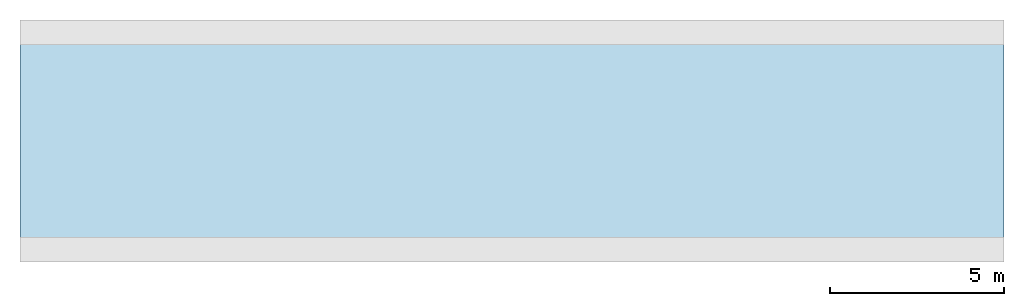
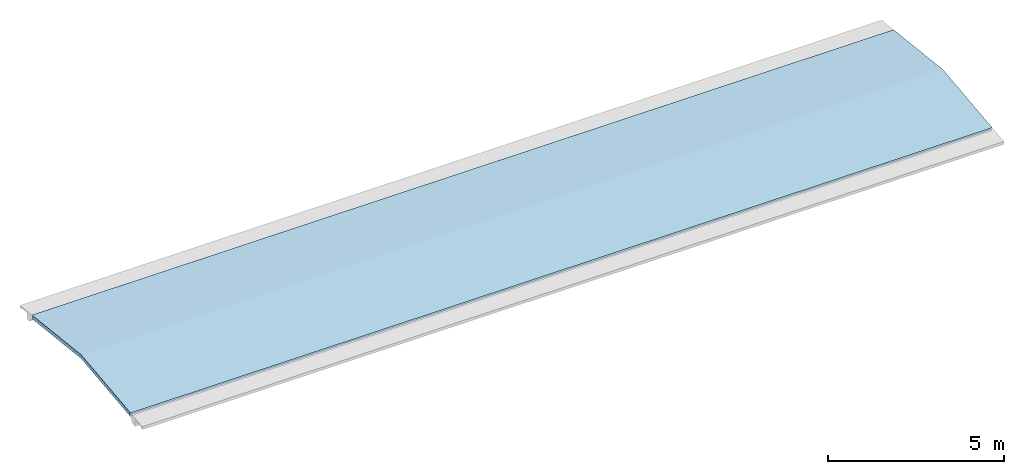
# One storey, part 1 of 2: 1 roof.
"""IFC2X3 building model written with IfcOpenShell, lengths in millimetres."""

from ifc_helpers import new_model, entity, si_unit, converted_unit, derived_unit, direction, frame, origin, place, context, subcontext, project, spatial, faceted_brep, material, element, save


model = new_model("IFC2X3")

# Units and contexts
model_context = context("Model", 3, precision=0.01, world=origin(), true_north=direction((6.12303176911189e-17, 1.0)))
body_context = subcontext(model_context, "Body", "Model", "MODEL_VIEW")
ifc_project = project(units=[si_unit("LENGTHUNIT", "METRE", prefix="MILLI"), si_unit("AREAUNIT", "SQUARE_METRE"), si_unit("VOLUMEUNIT", "CUBIC_METRE"), converted_unit("PLANEANGLEUNIT", "DEGREE", entity("IfcRatioMeasure", 0.0174532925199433), si_unit("PLANEANGLEUNIT", "RADIAN"), dimensions=[0, 0, 0, 0, 0, 0, 0]), si_unit("MASSUNIT", "GRAM", prefix="KILO"), derived_unit("MASSDENSITYUNIT", [(si_unit("MASSUNIT", "GRAM", prefix="KILO"), 1), (si_unit("LENGTHUNIT", "METRE"), -3)]), si_unit("TIMEUNIT", "SECOND"), si_unit("FREQUENCYUNIT", "HERTZ"), si_unit("THERMODYNAMICTEMPERATUREUNIT", "DEGREE_CELSIUS"), derived_unit("THERMALTRANSMITTANCEUNIT", [(si_unit("MASSUNIT", "GRAM", prefix="KILO"), 1), (si_unit("THERMODYNAMICTEMPERATUREUNIT", "KELVIN"), -1), (si_unit("TIMEUNIT", "SECOND"), -3)]), derived_unit("VOLUMETRICFLOWRATEUNIT", [(si_unit("LENGTHUNIT", "METRE"), 3), (si_unit("TIMEUNIT", "SECOND"), -1)]), si_unit("ELECTRICCURRENTUNIT", "AMPERE"), si_unit("ELECTRICVOLTAGEUNIT", "VOLT"), si_unit("POWERUNIT", "WATT"), si_unit("FORCEUNIT", "NEWTON", prefix="KILO"), si_unit("ILLUMINANCEUNIT", "LUX"), si_unit("LUMINOUSFLUXUNIT", "LUMEN"), si_unit("LUMINOUSINTENSITYUNIT", "CANDELA"), derived_unit("USERDEFINED", [(si_unit("MASSUNIT", "GRAM", prefix="KILO"), -1), (si_unit("LENGTHUNIT", "METRE"), -2), (si_unit("TIMEUNIT", "SECOND"), 3), (si_unit("LUMINOUSFLUXUNIT", "LUMEN"), 1)]), derived_unit("LINEARVELOCITYUNIT", [(si_unit("LENGTHUNIT", "METRE"), 1), (si_unit("TIMEUNIT", "SECOND"), -1)]), si_unit("PRESSUREUNIT", "PASCAL"), derived_unit("USERDEFINED", [(si_unit("LENGTHUNIT", "METRE"), -2), (si_unit("MASSUNIT", "GRAM", prefix="KILO"), 1), (si_unit("TIMEUNIT", "SECOND"), -2)])], contexts=[model_context])

# Site, building, storey
site_placement = place(None, origin())
site = spatial("IfcSite", under=ifc_project, at=site_placement, Name="表面", CompositionType="ELEMENT")
building_placement = place(site_placement, origin())
building = spatial("IfcBuilding", under=site, at=building_placement, CompositionType="ELEMENT")
storey_placement = place(building_placement, frame((0.0, 0.0, 13170.0)))
storey = spatial("IfcBuildingStorey", under=building, at=storey_placement, Name="13.170", CompositionType="ELEMENT", Elevation=13170.0)

# Roof
ifc_material = material(Name="彩钢-蓝")
roof_placement = place(storey_placement, frame((-25148.798781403, 5309.6974073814, 181.991694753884)))
element("IfcRoof", 1, at=roof_placement, inside=storey, material=ifc_material, Name="基本屋顶:常规 - 125mm", ObjectType="基本屋顶:常规 - 125mm", ShapeType="NOTDEFINED", context=body_context, shape_type="Brep", body=[
    faceted_brep([(0.0, 0.0, 123.008305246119), (0.0, 2800.0, 438.008305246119), (0.0, 5600.0, 123.008305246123), (0.0, 5550.0, 128.317873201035), (0.0, 5550.0, 37.6443870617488), (0.0, 5582.29604663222, 0.0), (0.0, 2800.0, 313.008305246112), (0.0, 17.7039533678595, 0.0), (0.0, 50.0, 37.644387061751), (0.0, 50.0, 128.317873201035), (28240.0, 2800.0, 438.008305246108), (28240.0, 0.0, 123.008305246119), (28240.0, 50.0, 128.317873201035), (28240.0, 50.0, 37.6443870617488), (28240.0, 17.7039533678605, 0.0), (28240.0, 2800.0, 313.008305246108), (28240.0, 5582.29604663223, 0.0), (28240.0, 5550.0, 37.6443870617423), (28240.0, 5550.0, 128.317873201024), (28240.0, 5600.0, 123.008305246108)], [[[0, 1, 2, 3, 4, 5, 6, 7, 8, 9]], [[10, 11, 12, 13, 14, 15, 16, 17, 18, 19]], [[1, 0, 11, 10]], [[1, 10, 19, 2]], [[6, 15, 14, 7]], [[15, 6, 5, 16]], [[18, 3, 2, 19]], [[3, 18, 17, 4]], [[4, 17, 16, 5]], [[9, 12, 11, 0]], [[12, 9, 8, 13]], [[13, 8, 7, 14]]]),
])

save(model, "model.ifc")
